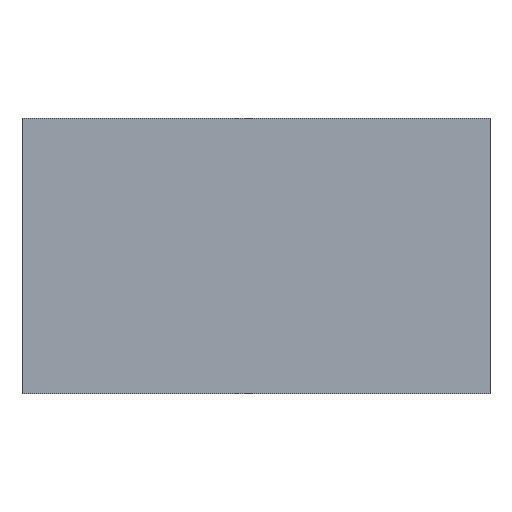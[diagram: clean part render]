
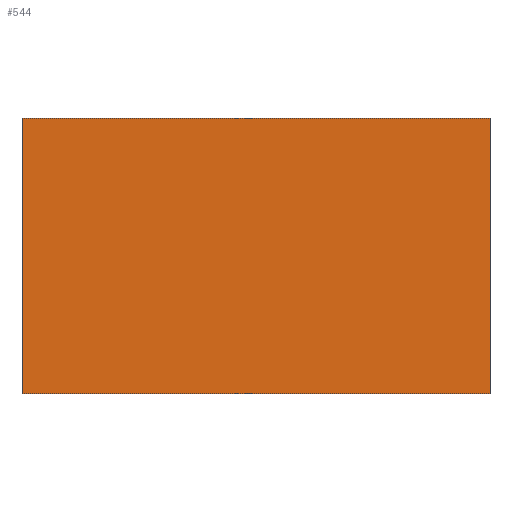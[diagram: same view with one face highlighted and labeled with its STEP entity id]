
A CAD part, top view. The second image highlights one B-rep face of the part: STEP entity #544.
In plain terms, the highlighted planar face has unit normal (0, 0, 1).
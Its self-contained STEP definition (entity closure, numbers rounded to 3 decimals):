
#544=ADVANCED_FACE('',(#960),#962,.T.);
#960=FACE_BOUND('',#961,.T.);
#961=EDGE_LOOP('',(#1265,#1266,#1267,#1268));
#962=PLANE('',#963);
#963=AXIS2_PLACEMENT_3D('',#964,#965,#966);
#964=CARTESIAN_POINT('',(0.,0.,0.336));
#965=DIRECTION('',(0.,0.,1.));
#966=DIRECTION('',(-1.,0.,0.));
#1265=ORIENTED_EDGE('',*,*,#1428,.T.);
#1266=ORIENTED_EDGE('',*,*,#1426,.T.);
#1267=ORIENTED_EDGE('',*,*,#1424,.T.);
#1268=ORIENTED_EDGE('',*,*,#1422,.T.);
#1422=EDGE_CURVE('',#1642,#1640,#1643,.T.);
#1424=EDGE_CURVE('',#1645,#1642,#1646,.T.);
#1426=EDGE_CURVE('',#1648,#1645,#1649,.T.);
#1428=EDGE_CURVE('',#1640,#1648,#1651,.T.);
#1640=VERTEX_POINT('',#2103);
#1642=VERTEX_POINT('',#2107);
#1643=LINE('',#2108,#2109);
#1645=VERTEX_POINT('',#2114);
#1646=LINE('',#2115,#2116);
#1648=VERTEX_POINT('',#2121);
#1649=LINE('',#2122,#2123);
#1651=LINE('',#2128,#2129);
#2103=CARTESIAN_POINT('',(-0.595,0.35,0.336));
#2107=CARTESIAN_POINT('',(0.595,0.35,0.336));
#2108=CARTESIAN_POINT('',(0.595,0.35,0.336));
#2109=VECTOR('',#2110,1.);
#2110=DIRECTION('',(-1.,0.,0.));
#2114=CARTESIAN_POINT('',(0.595,-0.35,0.336));
#2115=CARTESIAN_POINT('',(0.595,-0.35,0.336));
#2116=VECTOR('',#2117,1.);
#2117=DIRECTION('',(0.,1.,0.));
#2121=CARTESIAN_POINT('',(-0.595,-0.35,0.336));
#2122=CARTESIAN_POINT('',(-0.595,-0.35,0.336));
#2123=VECTOR('',#2124,1.);
#2124=DIRECTION('',(1.,0.,0.));
#2128=CARTESIAN_POINT('',(-0.595,0.35,0.336));
#2129=VECTOR('',#2130,1.);
#2130=DIRECTION('',(0.,-1.,0.));
